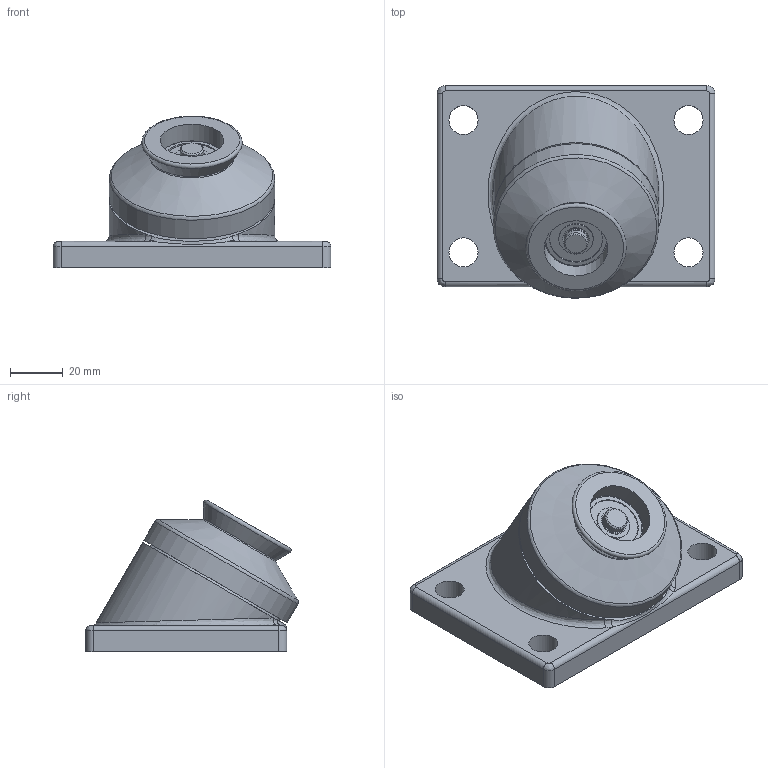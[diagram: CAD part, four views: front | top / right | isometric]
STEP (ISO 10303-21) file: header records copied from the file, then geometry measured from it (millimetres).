
FILE_DESCRIPTION(/* description */ (''),/* implementation_level */ '2;1');
FILE_NAME(/* name */ 'Z:\34-Tei\01-web 3Dデータ\SW車輪\SW-50-K.stp',/* time_stamp */ '2015-03-17T16:34:33+09:00',/* author */ ('yamaki'),/* organization */ (''),/* preprocessor_version */ 'ST-DEVELOPER v15.6',/* originating_system */ 'Autodesk Inventor 2015',/* authorisation */ '');
FILE_SCHEMA (('AUTOMOTIVE_DESIGN { 1 0 10303 214 3 1 1 }'));
Length unit declared in the file: centimetre
Products named in the file (1): SW-50-K
Bounding box: 105 x 80.36 x 57.34 mm (x, y, z)
Volume: 146842.7 mm3; surface area: 40936 mm2
Topology: 1 solids, 1 shells, 92 faces, 191 edges, 122 vertices
Faces by surface type: cylinder 36, plane 29, cone 11, torus 8, bspline 8
Full cylindrical faces by diameter (mm): 4.2 x1, 4.917 x2, 8.6 x1, 9 x4, 11 x4, 13 x2, 19 x1, 20 x2, 24 x1, 24.1 x1, 25 x1, 27 x1, 30 x1, 40 x1, 47.1 x1, 51 x1, 62.5 x1
Entity records: 2569 total; most frequent: CARTESIAN_POINT 682, DIRECTION 394, ORIENTED_EDGE 262, AXIS2_PLACEMENT_3D 186, EDGE_LOOP 170, EDGE_CURVE 131, VERTEX_POINT 107, CIRCLE 95
